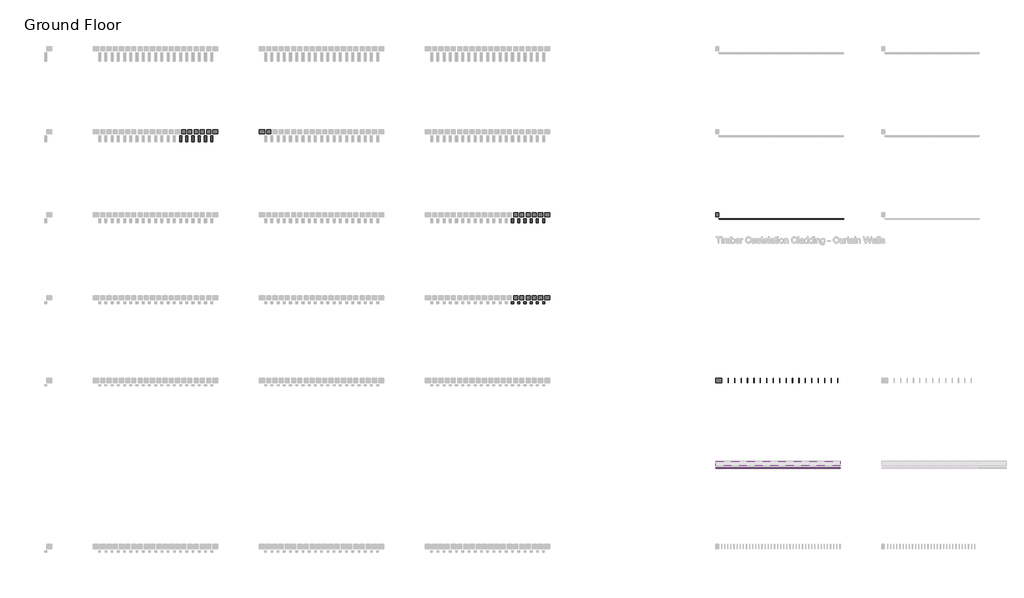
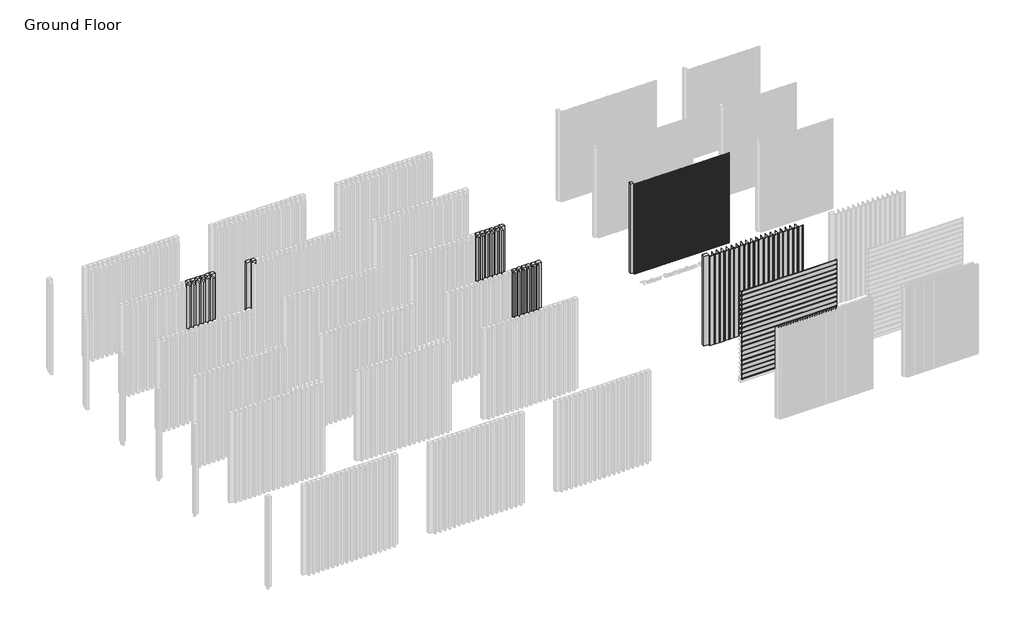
# One storey, part 20 of 350: 93 members, 47 plates.
"""IFC4 building model written with IfcOpenShell, lengths in millimetres."""

from ifc_helpers import new_model, si_unit, origin, place, context, project, spatial, transform, mapped, element, save
from components import rectangular_mullion_26362614, rectangular_mullion_4aa68164, rectangular_mullion_1e7650be, rectangular_mullion_e9fc8109, rectangular_mullion_a9feb706, empty_system_panel_empty_02c6fd44, empty_system_panel_empty_a8601f27, empty_system_panel_empty_23ba90fe, empty_system_panel_empty_02e968fa, empty_system_panel_empty_27b459cb, empty_system_panel_empty_81d7e91e, empty_system_panel_empty_cbd4e42b

model = new_model("IFC4")

# Units and contexts
model_context = context("Model", 3, world=origin())
ifc_project = project(units=[si_unit("LENGTHUNIT", "METRE", prefix="MILLI")], contexts=[model_context])

# Site, building, storey
site = spatial("IfcSite", under=ifc_project)
building = spatial("IfcBuilding", under=site)
storey = spatial("IfcBuildingStorey", under=building, Name="Ground Floor", Elevation=0.0)

# Members
placement = place(None, origin())
rectangular_mullion_shape = rectangular_mullion_26362614(model_context)
element("IfcMember", 1, ObjectType="Rectangular Mullion : Batten_Aluminium_Modinex_AluBatten_50x150_SpottedGum", at=placement, inside=storey, context=model_context, shape_type="MappedRepresentation", body=[
    mapped(rectangular_mullion_shape, transform((16016.4361642, 24968.2978302, 0.0), x_axis=(1.0, 0.0, 0.0), y_axis=(0.0, -1.0, 0.0), z_axis=(0.0, 0.0, -1.0))),
])
element("IfcMember", 2, ObjectType="Rectangular Mullion : Batten_Aluminium_Modinex_AluBatten_50x150_SpottedGum", at=placement, inside=storey, context=model_context, shape_type="MappedRepresentation", body=[
    mapped(rectangular_mullion_shape, transform((16166.4361642, 24968.2978302, 0.0), x_axis=(1.0, 0.0, 0.0), y_axis=(0.0, -1.0, 0.0), z_axis=(0.0, 0.0, -1.0))),
])
element("IfcMember", 3, ObjectType="Rectangular Mullion : Batten_Aluminium_Modinex_AluBatten_50x150_SpottedGum", at=placement, inside=storey, context=model_context, shape_type="MappedRepresentation", body=[
    mapped(rectangular_mullion_shape, transform((16316.4361642, 24968.2978302, 0.0), x_axis=(1.0, 0.0, 0.0), y_axis=(0.0, -1.0, 0.0), z_axis=(0.0, 0.0, -1.0))),
])
element("IfcMember", 4, ObjectType="Rectangular Mullion : Batten_Aluminium_Modinex_AluBatten_50x150_SpottedGum", at=placement, inside=storey, context=model_context, shape_type="MappedRepresentation", body=[
    mapped(rectangular_mullion_shape, transform((16466.4361642, 24968.2978302, 0.0), x_axis=(1.0, 0.0, 0.0), y_axis=(0.0, -1.0, 0.0), z_axis=(0.0, 0.0, -1.0))),
])
element("IfcMember", 5, ObjectType="Rectangular Mullion : Batten_Aluminium_Modinex_AluBatten_50x150_SpottedGum", at=placement, inside=storey, context=model_context, shape_type="MappedRepresentation", body=[
    mapped(rectangular_mullion_shape, transform((16616.4361642, 24968.2978302, 0.0), x_axis=(1.0, 0.0, 0.0), y_axis=(0.0, -1.0, 0.0), z_axis=(0.0, 0.0, -1.0))),
])
element("IfcMember", 6, ObjectType="Rectangular Mullion : Batten_Aluminium_Modinex_AluBatten_50x150_SpottedGum", at=placement, inside=storey, context=model_context, shape_type="MappedRepresentation", body=[
    mapped(rectangular_mullion_shape, transform((16766.4361642, 24968.2978302, 0.0), x_axis=(1.0, 0.0, 0.0), y_axis=(0.0, -1.0, 0.0), z_axis=(0.0, 0.0, -1.0))),
])
rectangular_mullion_2_shape = rectangular_mullion_4aa68164(model_context)
element("IfcMember", 7, ObjectType="Rectangular Mullion : Cladding_Timber_Modinex_Castelation_81x12_AlaskanYellowCedar", at=placement, inside=storey, context=model_context, shape_type="MappedRepresentation", body=[
    mapped(rectangular_mullion_2_shape, transform((30536.4361642, 22968.2978302, 0.0), x_axis=(1.0, 0.0, 0.0), y_axis=(0.0, -1.0, 0.0), z_axis=(0.0, 0.0, -1.0))),
])
element("IfcMember", 8, ObjectType="Rectangular Mullion : Cladding_Timber_Modinex_Castelation_81x12_AlaskanYellowCedar", at=placement, inside=storey, context=model_context, shape_type="MappedRepresentation", body=[
    mapped(rectangular_mullion_2_shape, transform((30617.4361642, 22968.2978302, 0.0), x_axis=(1.0, 0.0, 0.0), y_axis=(0.0, -1.0, 0.0), z_axis=(0.0, 0.0, -1.0))),
])
element("IfcMember", 9, ObjectType="Rectangular Mullion : Cladding_Timber_Modinex_Castelation_81x12_AlaskanYellowCedar", at=placement, inside=storey, context=model_context, shape_type="MappedRepresentation", body=[
    mapped(rectangular_mullion_2_shape, transform((30698.4361642, 22968.2978302, 0.0), x_axis=(1.0, 0.0, 0.0), y_axis=(0.0, -1.0, 0.0), z_axis=(0.0, 0.0, -1.0))),
])
element("IfcMember", 10, ObjectType="Rectangular Mullion : Cladding_Timber_Modinex_Castelation_81x12_AlaskanYellowCedar", at=placement, inside=storey, context=model_context, shape_type="MappedRepresentation", body=[
    mapped(rectangular_mullion_2_shape, transform((30779.4361642, 22968.2978302, 0.0), x_axis=(1.0, 0.0, 0.0), y_axis=(0.0, -1.0, 0.0), z_axis=(0.0, 0.0, -1.0))),
])
element("IfcMember", 11, ObjectType="Rectangular Mullion : Cladding_Timber_Modinex_Castelation_81x12_AlaskanYellowCedar", at=placement, inside=storey, context=model_context, shape_type="MappedRepresentation", body=[
    mapped(rectangular_mullion_2_shape, transform((30860.4361642, 22968.2978302, 0.0), x_axis=(1.0, 0.0, 0.0), y_axis=(0.0, -1.0, 0.0), z_axis=(0.0, 0.0, -1.0))),
])
element("IfcMember", 12, ObjectType="Rectangular Mullion : Cladding_Timber_Modinex_Castelation_81x12_AlaskanYellowCedar", at=placement, inside=storey, context=model_context, shape_type="MappedRepresentation", body=[
    mapped(rectangular_mullion_2_shape, transform((30941.4361642, 22968.2978302, 0.0), x_axis=(1.0, 0.0, 0.0), y_axis=(0.0, -1.0, 0.0), z_axis=(0.0, 0.0, -1.0))),
])
element("IfcMember", 13, ObjectType="Rectangular Mullion : Cladding_Timber_Modinex_Castelation_81x12_AlaskanYellowCedar", at=placement, inside=storey, context=model_context, shape_type="MappedRepresentation", body=[
    mapped(rectangular_mullion_2_shape, transform((31022.4361642, 22968.2978302, 0.0), x_axis=(1.0, 0.0, 0.0), y_axis=(0.0, -1.0, 0.0), z_axis=(0.0, 0.0, -1.0))),
])
element("IfcMember", 14, ObjectType="Rectangular Mullion : Cladding_Timber_Modinex_Castelation_81x12_AlaskanYellowCedar", at=placement, inside=storey, context=model_context, shape_type="MappedRepresentation", body=[
    mapped(rectangular_mullion_2_shape, transform((31103.4361642, 22968.2978302, 0.0), x_axis=(1.0, 0.0, 0.0), y_axis=(0.0, -1.0, 0.0), z_axis=(0.0, 0.0, -1.0))),
])
element("IfcMember", 15, ObjectType="Rectangular Mullion : Cladding_Timber_Modinex_Castelation_81x12_AlaskanYellowCedar", at=placement, inside=storey, context=model_context, shape_type="MappedRepresentation", body=[
    mapped(rectangular_mullion_2_shape, transform((31184.4361642, 22968.2978302, 0.0), x_axis=(1.0, 0.0, 0.0), y_axis=(0.0, -1.0, 0.0), z_axis=(0.0, 0.0, -1.0))),
])
element("IfcMember", 16, ObjectType="Rectangular Mullion : Cladding_Timber_Modinex_Castelation_81x12_AlaskanYellowCedar", at=placement, inside=storey, context=model_context, shape_type="MappedRepresentation", body=[
    mapped(rectangular_mullion_2_shape, transform((31265.4361642, 22968.2978302, 0.0), x_axis=(1.0, 0.0, 0.0), y_axis=(0.0, -1.0, 0.0), z_axis=(0.0, 0.0, -1.0))),
])
element("IfcMember", 17, ObjectType="Rectangular Mullion : Cladding_Timber_Modinex_Castelation_81x12_AlaskanYellowCedar", at=placement, inside=storey, context=model_context, shape_type="MappedRepresentation", body=[
    mapped(rectangular_mullion_2_shape, transform((31346.4361642, 22968.2978302, 0.0), x_axis=(1.0, 0.0, 0.0), y_axis=(0.0, -1.0, 0.0), z_axis=(0.0, 0.0, -1.0))),
])
element("IfcMember", 18, ObjectType="Rectangular Mullion : Cladding_Timber_Modinex_Castelation_81x12_AlaskanYellowCedar", at=placement, inside=storey, context=model_context, shape_type="MappedRepresentation", body=[
    mapped(rectangular_mullion_2_shape, transform((31427.4361642, 22968.2978302, 0.0), x_axis=(1.0, 0.0, 0.0), y_axis=(0.0, -1.0, 0.0), z_axis=(0.0, 0.0, -1.0))),
])
element("IfcMember", 19, ObjectType="Rectangular Mullion : Cladding_Timber_Modinex_Castelation_81x12_AlaskanYellowCedar", at=placement, inside=storey, context=model_context, shape_type="MappedRepresentation", body=[
    mapped(rectangular_mullion_2_shape, transform((31508.4361642, 22968.2978302, 0.0), x_axis=(1.0, 0.0, 0.0), y_axis=(0.0, -1.0, 0.0), z_axis=(0.0, 0.0, -1.0))),
])
element("IfcMember", 20, ObjectType="Rectangular Mullion : Cladding_Timber_Modinex_Castelation_81x12_AlaskanYellowCedar", at=placement, inside=storey, context=model_context, shape_type="MappedRepresentation", body=[
    mapped(rectangular_mullion_2_shape, transform((31589.4361642, 22968.2978302, 0.0), x_axis=(1.0, 0.0, 0.0), y_axis=(0.0, -1.0, 0.0), z_axis=(0.0, 0.0, -1.0))),
])
element("IfcMember", 21, ObjectType="Rectangular Mullion : Cladding_Timber_Modinex_Castelation_81x12_AlaskanYellowCedar", at=placement, inside=storey, context=model_context, shape_type="MappedRepresentation", body=[
    mapped(rectangular_mullion_2_shape, transform((31670.4361642, 22968.2978302, 0.0), x_axis=(1.0, 0.0, 0.0), y_axis=(0.0, -1.0, 0.0), z_axis=(0.0, 0.0, -1.0))),
])
element("IfcMember", 22, ObjectType="Rectangular Mullion : Cladding_Timber_Modinex_Castelation_81x12_AlaskanYellowCedar", at=placement, inside=storey, context=model_context, shape_type="MappedRepresentation", body=[
    mapped(rectangular_mullion_2_shape, transform((31751.4361642, 22968.2978302, 0.0), x_axis=(1.0, 0.0, 0.0), y_axis=(0.0, -1.0, 0.0), z_axis=(0.0, 0.0, -1.0))),
])
element("IfcMember", 23, ObjectType="Rectangular Mullion : Cladding_Timber_Modinex_Castelation_81x12_AlaskanYellowCedar", at=placement, inside=storey, context=model_context, shape_type="MappedRepresentation", body=[
    mapped(rectangular_mullion_2_shape, transform((31832.4361642, 22968.2978302, 0.0), x_axis=(1.0, 0.0, 0.0), y_axis=(0.0, -1.0, 0.0), z_axis=(0.0, 0.0, -1.0))),
])
element("IfcMember", 24, ObjectType="Rectangular Mullion : Cladding_Timber_Modinex_Castelation_81x12_AlaskanYellowCedar", at=placement, inside=storey, context=model_context, shape_type="MappedRepresentation", body=[
    mapped(rectangular_mullion_2_shape, transform((31913.4361642, 22968.2978302, 0.0), x_axis=(1.0, 0.0, 0.0), y_axis=(0.0, -1.0, 0.0), z_axis=(0.0, 0.0, -1.0))),
])
element("IfcMember", 25, ObjectType="Rectangular Mullion : Cladding_Timber_Modinex_Castelation_81x12_AlaskanYellowCedar", at=placement, inside=storey, context=model_context, shape_type="MappedRepresentation", body=[
    mapped(rectangular_mullion_2_shape, transform((30455.4361642, 22968.2978302, 0.0), x_axis=(1.0, 0.0, 0.0), y_axis=(0.0, -1.0, 0.0), z_axis=(0.0, 0.0, -1.0))),
])
element("IfcMember", 26, ObjectType="Rectangular Mullion : Cladding_Timber_Modinex_Castelation_81x12_AlaskanYellowCedar", at=placement, inside=storey, context=model_context, shape_type="MappedRepresentation", body=[
    mapped(rectangular_mullion_2_shape, transform((30374.4361642, 22968.2978302, 0.0), x_axis=(1.0, 0.0, 0.0), y_axis=(0.0, -1.0, 0.0), z_axis=(0.0, 0.0, -1.0))),
])
element("IfcMember", 27, ObjectType="Rectangular Mullion : Cladding_Timber_Modinex_Castelation_81x12_AlaskanYellowCedar", at=placement, inside=storey, context=model_context, shape_type="MappedRepresentation", body=[
    mapped(rectangular_mullion_2_shape, transform((30293.4361642, 22968.2978302, 0.0), x_axis=(1.0, 0.0, 0.0), y_axis=(0.0, -1.0, 0.0), z_axis=(0.0, 0.0, -1.0))),
])
element("IfcMember", 28, ObjectType="Rectangular Mullion : Cladding_Timber_Modinex_Castelation_81x12_AlaskanYellowCedar", at=placement, inside=storey, context=model_context, shape_type="MappedRepresentation", body=[
    mapped(rectangular_mullion_2_shape, transform((30212.4361642, 22968.2978302, 0.0), x_axis=(1.0, 0.0, 0.0), y_axis=(0.0, -1.0, 0.0), z_axis=(0.0, 0.0, -1.0))),
])
element("IfcMember", 29, ObjectType="Rectangular Mullion : Cladding_Timber_Modinex_Castelation_81x12_AlaskanYellowCedar", at=placement, inside=storey, context=model_context, shape_type="MappedRepresentation", body=[
    mapped(rectangular_mullion_2_shape, transform((30131.4361642, 22968.2978302, 0.0), x_axis=(1.0, 0.0, 0.0), y_axis=(0.0, -1.0, 0.0), z_axis=(0.0, 0.0, -1.0))),
])
element("IfcMember", 30, ObjectType="Rectangular Mullion : Cladding_Timber_Modinex_Castelation_81x12_AlaskanYellowCedar", at=placement, inside=storey, context=model_context, shape_type="MappedRepresentation", body=[
    mapped(rectangular_mullion_2_shape, transform((30050.4361642, 22968.2978302, 0.0), x_axis=(1.0, 0.0, 0.0), y_axis=(0.0, -1.0, 0.0), z_axis=(0.0, 0.0, -1.0))),
])
element("IfcMember", 31, ObjectType="Rectangular Mullion : Cladding_Timber_Modinex_Castelation_81x12_AlaskanYellowCedar", at=placement, inside=storey, context=model_context, shape_type="MappedRepresentation", body=[
    mapped(rectangular_mullion_2_shape, transform((29969.4361642, 22968.2978302, 0.0), x_axis=(1.0, 0.0, 0.0), y_axis=(0.0, -1.0, 0.0), z_axis=(0.0, 0.0, -1.0))),
])
element("IfcMember", 32, ObjectType="Rectangular Mullion : Cladding_Timber_Modinex_Castelation_81x12_AlaskanYellowCedar", at=placement, inside=storey, context=model_context, shape_type="MappedRepresentation", body=[
    mapped(rectangular_mullion_2_shape, transform((29888.4361642, 22968.2978302, 0.0), x_axis=(1.0, 0.0, 0.0), y_axis=(0.0, -1.0, 0.0), z_axis=(0.0, 0.0, -1.0))),
])
element("IfcMember", 33, ObjectType="Rectangular Mullion : Cladding_Timber_Modinex_Castelation_81x12_AlaskanYellowCedar", at=placement, inside=storey, context=model_context, shape_type="MappedRepresentation", body=[
    mapped(rectangular_mullion_2_shape, transform((29807.4361642, 22968.2978302, 0.0), x_axis=(1.0, 0.0, 0.0), y_axis=(0.0, -1.0, 0.0), z_axis=(0.0, 0.0, -1.0))),
])
element("IfcMember", 34, ObjectType="Rectangular Mullion : Cladding_Timber_Modinex_Castelation_81x12_AlaskanYellowCedar", at=placement, inside=storey, context=model_context, shape_type="MappedRepresentation", body=[
    mapped(rectangular_mullion_2_shape, transform((29726.4361642, 22968.2978302, 0.0), x_axis=(1.0, 0.0, 0.0), y_axis=(0.0, -1.0, 0.0), z_axis=(0.0, 0.0, -1.0))),
])
element("IfcMember", 35, ObjectType="Rectangular Mullion : Cladding_Timber_Modinex_Castelation_81x12_AlaskanYellowCedar", at=placement, inside=storey, context=model_context, shape_type="MappedRepresentation", body=[
    mapped(rectangular_mullion_2_shape, transform((29645.4361642, 22968.2978302, 0.0), x_axis=(1.0, 0.0, 0.0), y_axis=(0.0, -1.0, 0.0), z_axis=(0.0, 0.0, -1.0))),
])
element("IfcMember", 36, ObjectType="Rectangular Mullion : Cladding_Timber_Modinex_Castelation_81x12_AlaskanYellowCedar", at=placement, inside=storey, context=model_context, shape_type="MappedRepresentation", body=[
    mapped(rectangular_mullion_2_shape, transform((29564.4361642, 22968.2978302, 0.0), x_axis=(1.0, 0.0, 0.0), y_axis=(0.0, -1.0, 0.0), z_axis=(0.0, 0.0, -1.0))),
])
element("IfcMember", 37, ObjectType="Rectangular Mullion : Cladding_Timber_Modinex_Castelation_81x12_AlaskanYellowCedar", at=placement, inside=storey, context=model_context, shape_type="MappedRepresentation", body=[
    mapped(rectangular_mullion_2_shape, transform((29483.4361642, 22968.2978302, 0.0), x_axis=(1.0, 0.0, 0.0), y_axis=(0.0, -1.0, 0.0), z_axis=(0.0, 0.0, -1.0))),
])
element("IfcMember", 38, ObjectType="Rectangular Mullion : Cladding_Timber_Modinex_Castelation_81x12_AlaskanYellowCedar", at=placement, inside=storey, context=model_context, shape_type="MappedRepresentation", body=[
    mapped(rectangular_mullion_2_shape, transform((29402.4361642, 22968.2978302, 0.0), x_axis=(1.0, 0.0, 0.0), y_axis=(0.0, -1.0, 0.0), z_axis=(0.0, 0.0, -1.0))),
])
element("IfcMember", 39, ObjectType="Rectangular Mullion : Cladding_Timber_Modinex_Castelation_81x12_AlaskanYellowCedar", at=placement, inside=storey, context=model_context, shape_type="MappedRepresentation", body=[
    mapped(rectangular_mullion_2_shape, transform((29321.4361642, 22968.2978302, 0.0), x_axis=(1.0, 0.0, 0.0), y_axis=(0.0, -1.0, 0.0), z_axis=(0.0, 0.0, -1.0))),
])
element("IfcMember", 40, ObjectType="Rectangular Mullion : Cladding_Timber_Modinex_Castelation_81x12_AlaskanYellowCedar", at=placement, inside=storey, context=model_context, shape_type="MappedRepresentation", body=[
    mapped(rectangular_mullion_2_shape, transform((29240.4361642, 22968.2978302, 0.0), x_axis=(1.0, 0.0, 0.0), y_axis=(0.0, -1.0, 0.0), z_axis=(0.0, 0.0, -1.0))),
])
element("IfcMember", 41, ObjectType="Rectangular Mullion : Cladding_Timber_Modinex_Castelation_81x12_AlaskanYellowCedar", at=placement, inside=storey, context=model_context, shape_type="MappedRepresentation", body=[
    mapped(rectangular_mullion_2_shape, transform((29159.4361642, 22968.2978302, 0.0), x_axis=(1.0, 0.0, 0.0), y_axis=(0.0, -1.0, 0.0), z_axis=(0.0, 0.0, -1.0))),
])
element("IfcMember", 42, ObjectType="Rectangular Mullion : Cladding_Timber_Modinex_Castelation_81x12_AlaskanYellowCedar", at=placement, inside=storey, context=model_context, shape_type="MappedRepresentation", body=[
    mapped(rectangular_mullion_2_shape, transform((29078.4361642, 22968.2978302, 0.0), x_axis=(1.0, 0.0, 0.0), y_axis=(0.0, -1.0, 0.0), z_axis=(0.0, 0.0, -1.0))),
])
element("IfcMember", 43, ObjectType="Rectangular Mullion : Cladding_Timber_Modinex_Castelation_81x12_AlaskanYellowCedar", at=placement, inside=storey, context=model_context, shape_type="MappedRepresentation", body=[
    mapped(rectangular_mullion_2_shape, transform((28997.4361642, 22968.2978302, 0.0), x_axis=(1.0, 0.0, 0.0), y_axis=(0.0, -1.0, 0.0), z_axis=(0.0, 0.0, -1.0))),
])
rectangular_mullion_3_shape = rectangular_mullion_1e7650be(model_context)
element("IfcMember", 44, ObjectType="Rectangular Mullion : Batten_Aluminium_Modinex_AluBatten_50x50_WhiteOak", at=placement, inside=storey, context=model_context, shape_type="MappedRepresentation", body=[
    mapped(rectangular_mullion_3_shape, transform((24016.4361642, 20968.2978302, 0.0), x_axis=(1.0, 0.0, 0.0), y_axis=(0.0, -1.0, 0.0), z_axis=(0.0, 0.0, -1.0))),
])
element("IfcMember", 45, ObjectType="Rectangular Mullion : Batten_Aluminium_Modinex_AluBatten_50x50_WhiteOak", at=placement, inside=storey, context=model_context, shape_type="MappedRepresentation", body=[
    mapped(rectangular_mullion_3_shape, transform((24166.4361642, 20968.2978302, 0.0), x_axis=(1.0, 0.0, 0.0), y_axis=(0.0, -1.0, 0.0), z_axis=(0.0, 0.0, -1.0))),
])
element("IfcMember", 46, ObjectType="Rectangular Mullion : Batten_Aluminium_Modinex_AluBatten_50x50_WhiteOak", at=placement, inside=storey, context=model_context, shape_type="MappedRepresentation", body=[
    mapped(rectangular_mullion_3_shape, transform((24316.4361642, 20968.2978302, 0.0), x_axis=(1.0, 0.0, 0.0), y_axis=(0.0, -1.0, 0.0), z_axis=(0.0, 0.0, -1.0))),
])
element("IfcMember", 47, ObjectType="Rectangular Mullion : Batten_Aluminium_Modinex_AluBatten_50x50_WhiteOak", at=placement, inside=storey, context=model_context, shape_type="MappedRepresentation", body=[
    mapped(rectangular_mullion_3_shape, transform((24466.4361642, 20968.2978302, 0.0), x_axis=(1.0, 0.0, 0.0), y_axis=(0.0, -1.0, 0.0), z_axis=(0.0, 0.0, -1.0))),
])
element("IfcMember", 48, ObjectType="Rectangular Mullion : Batten_Aluminium_Modinex_AluBatten_50x50_WhiteOak", at=placement, inside=storey, context=model_context, shape_type="MappedRepresentation", body=[
    mapped(rectangular_mullion_3_shape, transform((24616.4361642, 20968.2978302, 0.0), x_axis=(1.0, 0.0, 0.0), y_axis=(0.0, -1.0, 0.0), z_axis=(0.0, 0.0, -1.0))),
])
element("IfcMember", 49, ObjectType="Rectangular Mullion : Batten_Aluminium_Modinex_AluBatten_50x50_WhiteOak", at=placement, inside=storey, context=model_context, shape_type="MappedRepresentation", body=[
    mapped(rectangular_mullion_3_shape, transform((24766.4361642, 20968.2978302, 0.0), x_axis=(1.0, 0.0, 0.0), y_axis=(0.0, -1.0, 0.0), z_axis=(0.0, 0.0, -1.0))),
])
rectangular_mullion_4_shape = rectangular_mullion_e9fc8109(model_context)
element("IfcMember", 50, ObjectType="Rectangular Mullion : Batten_Aluminium_Modinex_AluBatten_50x100_WhiteOak", at=placement, inside=storey, context=model_context, shape_type="MappedRepresentation", body=[
    mapped(rectangular_mullion_4_shape, transform((24016.4361642, 22968.2978302, 0.0), x_axis=(1.0, 0.0, 0.0), y_axis=(0.0, -1.0, 0.0), z_axis=(0.0, 0.0, -1.0))),
])
element("IfcMember", 51, ObjectType="Rectangular Mullion : Batten_Aluminium_Modinex_AluBatten_50x100_WhiteOak", at=placement, inside=storey, context=model_context, shape_type="MappedRepresentation", body=[
    mapped(rectangular_mullion_4_shape, transform((24166.4361642, 22968.2978302, 0.0), x_axis=(1.0, 0.0, 0.0), y_axis=(0.0, -1.0, 0.0), z_axis=(0.0, 0.0, -1.0))),
])
element("IfcMember", 52, ObjectType="Rectangular Mullion : Batten_Aluminium_Modinex_AluBatten_50x100_WhiteOak", at=placement, inside=storey, context=model_context, shape_type="MappedRepresentation", body=[
    mapped(rectangular_mullion_4_shape, transform((24316.4361642, 22968.2978302, 0.0), x_axis=(1.0, 0.0, 0.0), y_axis=(0.0, -1.0, 0.0), z_axis=(0.0, 0.0, -1.0))),
])
element("IfcMember", 53, ObjectType="Rectangular Mullion : Batten_Aluminium_Modinex_AluBatten_50x100_WhiteOak", at=placement, inside=storey, context=model_context, shape_type="MappedRepresentation", body=[
    mapped(rectangular_mullion_4_shape, transform((24466.4361642, 22968.2978302, 0.0), x_axis=(1.0, 0.0, 0.0), y_axis=(0.0, -1.0, 0.0), z_axis=(0.0, 0.0, -1.0))),
])
element("IfcMember", 54, ObjectType="Rectangular Mullion : Batten_Aluminium_Modinex_AluBatten_50x100_WhiteOak", at=placement, inside=storey, context=model_context, shape_type="MappedRepresentation", body=[
    mapped(rectangular_mullion_4_shape, transform((24616.4361642, 22968.2978302, 0.0), x_axis=(1.0, 0.0, 0.0), y_axis=(0.0, -1.0, 0.0), z_axis=(0.0, 0.0, -1.0))),
])
element("IfcMember", 55, ObjectType="Rectangular Mullion : Batten_Aluminium_Modinex_AluBatten_50x100_WhiteOak", at=placement, inside=storey, context=model_context, shape_type="MappedRepresentation", body=[
    mapped(rectangular_mullion_4_shape, transform((24766.4361642, 22968.2978302, 0.0), x_axis=(1.0, 0.0, 0.0), y_axis=(0.0, -1.0, 0.0), z_axis=(0.0, 0.0, -1.0))),
])
rectangular_mullion_5_shape = rectangular_mullion_a9feb706(model_context)
element("IfcMember", 56, ObjectType="Rectangular Mullion : Cladding_Aluminium_Modinex_AluSelekta_Channel_155_AfricanEbony", at=placement, inside=storey, context=model_context, shape_type="MappedRepresentation", body=[
    mapped(rectangular_mullion_5_shape, transform((31916.4361639, 16968.2978302, 155.0), x_axis=(0.0, 0.0, 1.0), y_axis=(0.0, -1.0, 0.0), z_axis=(1.0, 0.0, 0.0))),
])
element("IfcMember", 57, ObjectType="Rectangular Mullion : Cladding_Aluminium_Modinex_AluSelekta_Channel_155_AfricanEbony", at=placement, inside=storey, context=model_context, shape_type="MappedRepresentation", body=[
    mapped(rectangular_mullion_5_shape, transform((31916.4361639, 16968.2978302, 310.0), x_axis=(0.0, 0.0, 1.0), y_axis=(0.0, -1.0, 0.0), z_axis=(1.0, 0.0, 0.0))),
])
element("IfcMember", 58, ObjectType="Rectangular Mullion : Cladding_Aluminium_Modinex_AluSelekta_Channel_155_AfricanEbony", at=placement, inside=storey, context=model_context, shape_type="MappedRepresentation", body=[
    mapped(rectangular_mullion_5_shape, transform((31916.4361639, 16968.2978302, 465.0), x_axis=(0.0, 0.0, 1.0), y_axis=(0.0, -1.0, 0.0), z_axis=(1.0, 0.0, 0.0))),
])
element("IfcMember", 59, ObjectType="Rectangular Mullion : Cladding_Aluminium_Modinex_AluSelekta_Channel_155_AfricanEbony", at=placement, inside=storey, context=model_context, shape_type="MappedRepresentation", body=[
    mapped(rectangular_mullion_5_shape, transform((31916.4361639, 16968.2978302, 620.0), x_axis=(0.0, 0.0, 1.0), y_axis=(0.0, -1.0, 0.0), z_axis=(1.0, 0.0, 0.0))),
])
element("IfcMember", 60, ObjectType="Rectangular Mullion : Cladding_Aluminium_Modinex_AluSelekta_Channel_155_AfricanEbony", at=placement, inside=storey, context=model_context, shape_type="MappedRepresentation", body=[
    mapped(rectangular_mullion_5_shape, transform((31916.4361639, 16968.2978302, 775.0), x_axis=(0.0, 0.0, 1.0), y_axis=(0.0, -1.0, 0.0), z_axis=(1.0, 0.0, 0.0))),
])
element("IfcMember", 61, ObjectType="Rectangular Mullion : Cladding_Aluminium_Modinex_AluSelekta_Channel_155_AfricanEbony", at=placement, inside=storey, context=model_context, shape_type="MappedRepresentation", body=[
    mapped(rectangular_mullion_5_shape, transform((31916.4361639, 16968.2978302, 930.0), x_axis=(0.0, 0.0, 1.0), y_axis=(0.0, -1.0, 0.0), z_axis=(1.0, 0.0, 0.0))),
])
element("IfcMember", 62, ObjectType="Rectangular Mullion : Cladding_Aluminium_Modinex_AluSelekta_Channel_155_AfricanEbony", at=placement, inside=storey, context=model_context, shape_type="MappedRepresentation", body=[
    mapped(rectangular_mullion_5_shape, transform((31916.4361639, 16968.2978302, 1085.0), x_axis=(0.0, 0.0, 1.0), y_axis=(0.0, -1.0, 0.0), z_axis=(1.0, 0.0, 0.0))),
])
element("IfcMember", 63, ObjectType="Rectangular Mullion : Cladding_Aluminium_Modinex_AluSelekta_Channel_155_AfricanEbony", at=placement, inside=storey, context=model_context, shape_type="MappedRepresentation", body=[
    mapped(rectangular_mullion_5_shape, transform((31916.4361639, 16968.2978302, 1240.0), x_axis=(0.0, 0.0, 1.0), y_axis=(0.0, -1.0, 0.0), z_axis=(1.0, 0.0, 0.0))),
])
element("IfcMember", 64, ObjectType="Rectangular Mullion : Cladding_Aluminium_Modinex_AluSelekta_Channel_155_AfricanEbony", at=placement, inside=storey, context=model_context, shape_type="MappedRepresentation", body=[
    mapped(rectangular_mullion_5_shape, transform((31916.4361639, 16968.2978302, 1395.0), x_axis=(0.0, 0.0, 1.0), y_axis=(0.0, -1.0, 0.0), z_axis=(1.0, 0.0, 0.0))),
])
element("IfcMember", 65, ObjectType="Rectangular Mullion : Cladding_Aluminium_Modinex_AluSelekta_Channel_155_AfricanEbony", at=placement, inside=storey, context=model_context, shape_type="MappedRepresentation", body=[
    mapped(rectangular_mullion_5_shape, transform((31916.4361639, 16968.2978302, 1550.0), x_axis=(0.0, 0.0, 1.0), y_axis=(0.0, -1.0, 0.0), z_axis=(1.0, 0.0, 0.0))),
])
element("IfcMember", 66, ObjectType="Rectangular Mullion : Cladding_Aluminium_Modinex_AluSelekta_Channel_155_AfricanEbony", at=placement, inside=storey, context=model_context, shape_type="MappedRepresentation", body=[
    mapped(rectangular_mullion_5_shape, transform((31916.4361639, 16968.2978302, 1705.0), x_axis=(0.0, 0.0, 1.0), y_axis=(0.0, -1.0, 0.0), z_axis=(1.0, 0.0, 0.0))),
])
element("IfcMember", 67, ObjectType="Rectangular Mullion : Cladding_Aluminium_Modinex_AluSelekta_Channel_155_AfricanEbony", at=placement, inside=storey, context=model_context, shape_type="MappedRepresentation", body=[
    mapped(rectangular_mullion_5_shape, transform((31916.4361639, 16968.2978302, 1860.0), x_axis=(0.0, 0.0, 1.0), y_axis=(0.0, -1.0, 0.0), z_axis=(1.0, 0.0, 0.0))),
])
element("IfcMember", 68, ObjectType="Rectangular Mullion : Cladding_Aluminium_Modinex_AluSelekta_Channel_155_AfricanEbony", at=placement, inside=storey, context=model_context, shape_type="MappedRepresentation", body=[
    mapped(rectangular_mullion_5_shape, transform((31916.4361639, 16968.2978302, 2015.0), x_axis=(0.0, 0.0, 1.0), y_axis=(0.0, -1.0, 0.0), z_axis=(1.0, 0.0, 0.0))),
])
element("IfcMember", 69, ObjectType="Rectangular Mullion : Cladding_Aluminium_Modinex_AluSelekta_Channel_155_AfricanEbony", at=placement, inside=storey, context=model_context, shape_type="MappedRepresentation", body=[
    mapped(rectangular_mullion_5_shape, transform((31916.4361639, 16968.2978302, 2170.0), x_axis=(0.0, 0.0, 1.0), y_axis=(0.0, -1.0, 0.0), z_axis=(1.0, 0.0, 0.0))),
])
element("IfcMember", 70, ObjectType="Rectangular Mullion : Cladding_Aluminium_Modinex_AluSelekta_Channel_155_AfricanEbony", at=placement, inside=storey, context=model_context, shape_type="MappedRepresentation", body=[
    mapped(rectangular_mullion_5_shape, transform((31916.4361639, 16968.2978302, 2325.0), x_axis=(0.0, 0.0, 1.0), y_axis=(0.0, -1.0, 0.0), z_axis=(1.0, 0.0, 0.0))),
])
element("IfcMember", 71, ObjectType="Rectangular Mullion : Cladding_Aluminium_Modinex_AluSelekta_Channel_155_AfricanEbony", at=placement, inside=storey, context=model_context, shape_type="MappedRepresentation", body=[
    mapped(rectangular_mullion_5_shape, transform((31916.4361639, 16968.2978302, 2480.0), x_axis=(0.0, 0.0, 1.0), y_axis=(0.0, -1.0, 0.0), z_axis=(1.0, 0.0, 0.0))),
])
element("IfcMember", 72, ObjectType="Rectangular Mullion : Cladding_Aluminium_Modinex_AluSelekta_Channel_155_AfricanEbony", at=placement, inside=storey, context=model_context, shape_type="MappedRepresentation", body=[
    mapped(rectangular_mullion_5_shape, transform((31916.4361639, 16968.2978302, 2635.0), x_axis=(0.0, 0.0, 1.0), y_axis=(0.0, -1.0, 0.0), z_axis=(1.0, 0.0, 0.0))),
])
element("IfcMember", 73, ObjectType="Rectangular Mullion : Cladding_Aluminium_Modinex_AluSelekta_Channel_155_AfricanEbony", at=placement, inside=storey, context=model_context, shape_type="MappedRepresentation", body=[
    mapped(rectangular_mullion_5_shape, transform((31916.4361639, 16968.2978302, 2790.0), x_axis=(0.0, 0.0, 1.0), y_axis=(0.0, -1.0, 0.0), z_axis=(1.0, 0.0, 0.0))),
])
element("IfcMember", 74, ObjectType="Rectangular Mullion : Cladding_Aluminium_Modinex_AluSelekta_Channel_155_AfricanEbony", at=placement, inside=storey, context=model_context, shape_type="MappedRepresentation", body=[
    mapped(rectangular_mullion_5_shape, transform((31916.4361639, 16968.2978302, 2945.0), x_axis=(0.0, 0.0, 1.0), y_axis=(0.0, -1.0, 0.0), z_axis=(1.0, 0.0, 0.0))),
])
element("IfcMember", 75, ObjectType="Rectangular Mullion : Cladding_Aluminium_Modinex_AluSelekta_Channel_155_AfricanEbony", at=placement, inside=storey, context=model_context, shape_type="MappedRepresentation", body=[
    mapped(rectangular_mullion_5_shape, transform((29226.4361642, 18968.2978302, 0.0), x_axis=(1.0, 0.0, 0.0), y_axis=(0.0, -1.0, 0.0), z_axis=(0.0, 0.0, -1.0))),
])
element("IfcMember", 76, ObjectType="Rectangular Mullion : Cladding_Aluminium_Modinex_AluSelekta_Channel_155_AfricanEbony", at=placement, inside=storey, context=model_context, shape_type="MappedRepresentation", body=[
    mapped(rectangular_mullion_5_shape, transform((29381.4361642, 18968.2978302, 0.0), x_axis=(1.0, 0.0, 0.0), y_axis=(0.0, -1.0, 0.0), z_axis=(0.0, 0.0, -1.0))),
])
element("IfcMember", 77, ObjectType="Rectangular Mullion : Cladding_Aluminium_Modinex_AluSelekta_Channel_155_AfricanEbony", at=placement, inside=storey, context=model_context, shape_type="MappedRepresentation", body=[
    mapped(rectangular_mullion_5_shape, transform((29536.4361642, 18968.2978302, 0.0), x_axis=(1.0, 0.0, 0.0), y_axis=(0.0, -1.0, 0.0), z_axis=(0.0, 0.0, -1.0))),
])
element("IfcMember", 78, ObjectType="Rectangular Mullion : Cladding_Aluminium_Modinex_AluSelekta_Channel_155_AfricanEbony", at=placement, inside=storey, context=model_context, shape_type="MappedRepresentation", body=[
    mapped(rectangular_mullion_5_shape, transform((29691.4361642, 18968.2978302, 0.0), x_axis=(1.0, 0.0, 0.0), y_axis=(0.0, -1.0, 0.0), z_axis=(0.0, 0.0, -1.0))),
])
element("IfcMember", 79, ObjectType="Rectangular Mullion : Cladding_Aluminium_Modinex_AluSelekta_Channel_155_AfricanEbony", at=placement, inside=storey, context=model_context, shape_type="MappedRepresentation", body=[
    mapped(rectangular_mullion_5_shape, transform((29846.4361642, 18968.2978302, 0.0), x_axis=(1.0, 0.0, 0.0), y_axis=(0.0, -1.0, 0.0), z_axis=(0.0, 0.0, -1.0))),
])
element("IfcMember", 80, ObjectType="Rectangular Mullion : Cladding_Aluminium_Modinex_AluSelekta_Channel_155_AfricanEbony", at=placement, inside=storey, context=model_context, shape_type="MappedRepresentation", body=[
    mapped(rectangular_mullion_5_shape, transform((30001.4361642, 18968.2978302, 0.0), x_axis=(1.0, 0.0, 0.0), y_axis=(0.0, -1.0, 0.0), z_axis=(0.0, 0.0, -1.0))),
])
element("IfcMember", 81, ObjectType="Rectangular Mullion : Cladding_Aluminium_Modinex_AluSelekta_Channel_155_AfricanEbony", at=placement, inside=storey, context=model_context, shape_type="MappedRepresentation", body=[
    mapped(rectangular_mullion_5_shape, transform((30156.4361642, 18968.2978302, 0.0), x_axis=(1.0, 0.0, 0.0), y_axis=(0.0, -1.0, 0.0), z_axis=(0.0, 0.0, -1.0))),
])
element("IfcMember", 82, ObjectType="Rectangular Mullion : Cladding_Aluminium_Modinex_AluSelekta_Channel_155_AfricanEbony", at=placement, inside=storey, context=model_context, shape_type="MappedRepresentation", body=[
    mapped(rectangular_mullion_5_shape, transform((30311.4361642, 18968.2978302, 0.0), x_axis=(1.0, 0.0, 0.0), y_axis=(0.0, -1.0, 0.0), z_axis=(0.0, 0.0, -1.0))),
])
element("IfcMember", 83, ObjectType="Rectangular Mullion : Cladding_Aluminium_Modinex_AluSelekta_Channel_155_AfricanEbony", at=placement, inside=storey, context=model_context, shape_type="MappedRepresentation", body=[
    mapped(rectangular_mullion_5_shape, transform((30466.4361642, 18968.2978302, 0.0), x_axis=(1.0, 0.0, 0.0), y_axis=(0.0, -1.0, 0.0), z_axis=(0.0, 0.0, -1.0))),
])
element("IfcMember", 84, ObjectType="Rectangular Mullion : Cladding_Aluminium_Modinex_AluSelekta_Channel_155_AfricanEbony", at=placement, inside=storey, context=model_context, shape_type="MappedRepresentation", body=[
    mapped(rectangular_mullion_5_shape, transform((30621.4361642, 18968.2978302, 0.0), x_axis=(1.0, 0.0, 0.0), y_axis=(0.0, -1.0, 0.0), z_axis=(0.0, 0.0, -1.0))),
])
element("IfcMember", 85, ObjectType="Rectangular Mullion : Cladding_Aluminium_Modinex_AluSelekta_Channel_155_AfricanEbony", at=placement, inside=storey, context=model_context, shape_type="MappedRepresentation", body=[
    mapped(rectangular_mullion_5_shape, transform((30776.4361642, 18968.2978302, 0.0), x_axis=(1.0, 0.0, 0.0), y_axis=(0.0, -1.0, 0.0), z_axis=(0.0, 0.0, -1.0))),
])
element("IfcMember", 86, ObjectType="Rectangular Mullion : Cladding_Aluminium_Modinex_AluSelekta_Channel_155_AfricanEbony", at=placement, inside=storey, context=model_context, shape_type="MappedRepresentation", body=[
    mapped(rectangular_mullion_5_shape, transform((30931.4361642, 18968.2978302, 0.0), x_axis=(1.0, 0.0, 0.0), y_axis=(0.0, -1.0, 0.0), z_axis=(0.0, 0.0, -1.0))),
])
element("IfcMember", 87, ObjectType="Rectangular Mullion : Cladding_Aluminium_Modinex_AluSelekta_Channel_155_AfricanEbony", at=placement, inside=storey, context=model_context, shape_type="MappedRepresentation", body=[
    mapped(rectangular_mullion_5_shape, transform((31086.4361642, 18968.2978302, 0.0), x_axis=(1.0, 0.0, 0.0), y_axis=(0.0, -1.0, 0.0), z_axis=(0.0, 0.0, -1.0))),
])
element("IfcMember", 88, ObjectType="Rectangular Mullion : Cladding_Aluminium_Modinex_AluSelekta_Channel_155_AfricanEbony", at=placement, inside=storey, context=model_context, shape_type="MappedRepresentation", body=[
    mapped(rectangular_mullion_5_shape, transform((31241.4361642, 18968.2978302, 0.0), x_axis=(1.0, 0.0, 0.0), y_axis=(0.0, -1.0, 0.0), z_axis=(0.0, 0.0, -1.0))),
])
element("IfcMember", 89, ObjectType="Rectangular Mullion : Cladding_Aluminium_Modinex_AluSelekta_Channel_155_AfricanEbony", at=placement, inside=storey, context=model_context, shape_type="MappedRepresentation", body=[
    mapped(rectangular_mullion_5_shape, transform((31396.4361642, 18968.2978302, 0.0), x_axis=(1.0, 0.0, 0.0), y_axis=(0.0, -1.0, 0.0), z_axis=(0.0, 0.0, -1.0))),
])
element("IfcMember", 90, ObjectType="Rectangular Mullion : Cladding_Aluminium_Modinex_AluSelekta_Channel_155_AfricanEbony", at=placement, inside=storey, context=model_context, shape_type="MappedRepresentation", body=[
    mapped(rectangular_mullion_5_shape, transform((31551.4361642, 18968.2978302, 0.0), x_axis=(1.0, 0.0, 0.0), y_axis=(0.0, -1.0, 0.0), z_axis=(0.0, 0.0, -1.0))),
])
element("IfcMember", 91, ObjectType="Rectangular Mullion : Cladding_Aluminium_Modinex_AluSelekta_Channel_155_AfricanEbony", at=placement, inside=storey, context=model_context, shape_type="MappedRepresentation", body=[
    mapped(rectangular_mullion_5_shape, transform((31706.4361642, 18968.2978302, 0.0), x_axis=(1.0, 0.0, 0.0), y_axis=(0.0, -1.0, 0.0), z_axis=(0.0, 0.0, -1.0))),
])
element("IfcMember", 92, ObjectType="Rectangular Mullion : Cladding_Aluminium_Modinex_AluSelekta_Channel_155_AfricanEbony", at=placement, inside=storey, context=model_context, shape_type="MappedRepresentation", body=[
    mapped(rectangular_mullion_5_shape, transform((31861.4361642, 18968.2978302, 0.0), x_axis=(1.0, 0.0, 0.0), y_axis=(0.0, -1.0, 0.0), z_axis=(0.0, 0.0, -1.0))),
])
element("IfcMember", 93, ObjectType="Rectangular Mullion : Cladding_Aluminium_Modinex_AluSelekta_Channel_155_AfricanEbony", at=placement, inside=storey, context=model_context, shape_type="MappedRepresentation", body=[
    mapped(rectangular_mullion_5_shape, transform((29071.4361642, 18968.2978302, 0.0), x_axis=(1.0, 0.0, 0.0), y_axis=(0.0, -1.0, 0.0), z_axis=(0.0, 0.0, -1.0))),
])

# Plates
empty_system_panel_empty_shape = empty_system_panel_empty_02c6fd44(model_context)
element("IfcPlate", 94, ObjectType="Empty System Panel : Empty", at=placement, inside=storey, context=model_context, shape_type="MappedRepresentation", body=[
    mapped(empty_system_panel_empty_shape, transform((30416.4361639, 16968.2978302, 2002.2580963), x_axis=(1.0, 0.0, 0.0), y_axis=(0.0, 1.0, 0.0), z_axis=(0.0, 0.0, 1.0))),
])
element("IfcPlate", 95, ObjectType="Empty System Panel : Empty", at=placement, inside=storey, context=model_context, shape_type="MappedRepresentation", body=[
    mapped(empty_system_panel_empty_shape, transform((30416.4361639, 16968.2978302, 2157.2580963), x_axis=(1.0, 0.0, 0.0), y_axis=(0.0, 1.0, 0.0), z_axis=(0.0, 0.0, 1.0))),
])
element("IfcPlate", 96, ObjectType="Empty System Panel : Empty", at=placement, inside=storey, context=model_context, shape_type="MappedRepresentation", body=[
    mapped(empty_system_panel_empty_shape, transform((30416.4361639, 16968.2978302, 2312.2580963), x_axis=(1.0, 0.0, 0.0), y_axis=(0.0, 1.0, 0.0), z_axis=(0.0, 0.0, 1.0))),
])
element("IfcPlate", 97, ObjectType="Empty System Panel : Empty", at=placement, inside=storey, context=model_context, shape_type="MappedRepresentation", body=[
    mapped(empty_system_panel_empty_shape, transform((30416.4361639, 16968.2978302, 2467.2580963), x_axis=(1.0, 0.0, 0.0), y_axis=(0.0, 1.0, 0.0), z_axis=(0.0, 0.0, 1.0))),
])
element("IfcPlate", 98, ObjectType="Empty System Panel : Empty", at=placement, inside=storey, context=model_context, shape_type="MappedRepresentation", body=[
    mapped(empty_system_panel_empty_shape, transform((30416.4361639, 16968.2978302, 2622.2580963), x_axis=(1.0, 0.0, 0.0), y_axis=(0.0, 1.0, 0.0), z_axis=(0.0, 0.0, 1.0))),
])
element("IfcPlate", 99, ObjectType="Empty System Panel : Empty", at=placement, inside=storey, context=model_context, shape_type="MappedRepresentation", body=[
    mapped(empty_system_panel_empty_shape, transform((30416.4361639, 16968.2978302, 2777.2580963), x_axis=(1.0, 0.0, 0.0), y_axis=(0.0, 1.0, 0.0), z_axis=(0.0, 0.0, 1.0))),
])
element("IfcPlate", 100, ObjectType="Empty System Panel : Empty", at=placement, inside=storey, context=model_context, shape_type="MappedRepresentation", body=[
    mapped(empty_system_panel_empty_shape, transform((30416.4361639, 16968.2978302, 2932.2580963), x_axis=(1.0, 0.0, 0.0), y_axis=(0.0, 1.0, 0.0), z_axis=(0.0, 0.0, 1.0))),
])
empty_system_panel_empty_2_shape = empty_system_panel_empty_a8601f27(model_context)
element("IfcPlate", 101, ObjectType="Empty System Panel : Empty", at=placement, inside=storey, context=model_context, shape_type="MappedRepresentation", body=[
    mapped(empty_system_panel_empty_2_shape, transform((17978.9361641, 24968.2978302, 0.0), x_axis=(1.0, 0.0, 0.0), y_axis=(0.0, 1.0, 0.0), z_axis=(0.0, 0.0, 1.0))),
])
empty_system_panel_empty_3_shape = empty_system_panel_empty_23ba90fe(model_context)
element("IfcPlate", 102, ObjectType="Empty System Panel : Empty", at=placement, inside=storey, context=model_context, shape_type="MappedRepresentation", body=[
    mapped(empty_system_panel_empty_3_shape, transform((16091.4361642, 24968.2978302, 0.0), x_axis=(1.0, 0.0, 0.0), y_axis=(0.0, 1.0, 0.0), z_axis=(0.0, 0.0, 1.0))),
])
element("IfcPlate", 103, ObjectType="Empty System Panel : Empty", at=placement, inside=storey, context=model_context, shape_type="MappedRepresentation", body=[
    mapped(empty_system_panel_empty_3_shape, transform((16241.4361642, 24968.2978302, 0.0), x_axis=(1.0, 0.0, 0.0), y_axis=(0.0, 1.0, 0.0), z_axis=(0.0, 0.0, 1.0))),
])
element("IfcPlate", 104, ObjectType="Empty System Panel : Empty", at=placement, inside=storey, context=model_context, shape_type="MappedRepresentation", body=[
    mapped(empty_system_panel_empty_3_shape, transform((16391.4361642, 24968.2978302, 0.0), x_axis=(1.0, 0.0, 0.0), y_axis=(0.0, 1.0, 0.0), z_axis=(0.0, 0.0, 1.0))),
])
element("IfcPlate", 105, ObjectType="Empty System Panel : Empty", at=placement, inside=storey, context=model_context, shape_type="MappedRepresentation", body=[
    mapped(empty_system_panel_empty_3_shape, transform((16541.4361642, 24968.2978302, 0.0), x_axis=(1.0, 0.0, 0.0), y_axis=(0.0, 1.0, 0.0), z_axis=(0.0, 0.0, 1.0))),
])
element("IfcPlate", 106, ObjectType="Empty System Panel : Empty", at=placement, inside=storey, context=model_context, shape_type="MappedRepresentation", body=[
    mapped(empty_system_panel_empty_3_shape, transform((16691.4361642, 24968.2978302, 0.0), x_axis=(1.0, 0.0, 0.0), y_axis=(0.0, 1.0, 0.0), z_axis=(0.0, 0.0, 1.0))),
])
element("IfcPlate", 107, ObjectType="Empty System Panel : Empty", at=placement, inside=storey, context=model_context, shape_type="MappedRepresentation", body=[
    mapped(empty_system_panel_empty_3_shape, transform((18141.4361642, 24968.2978302, 0.0), x_axis=(1.0, 0.0, 0.0), y_axis=(0.0, 1.0, 0.0), z_axis=(0.0, 0.0, 1.0))),
])
element("IfcPlate", 108, ObjectType="Empty System Panel : Empty", at=placement, inside=storey, context=model_context, shape_type="MappedRepresentation", body=[
    mapped(empty_system_panel_empty_3_shape, transform((24091.4361642, 20968.2978302, 0.0), x_axis=(1.0, 0.0, 0.0), y_axis=(0.0, 1.0, 0.0), z_axis=(0.0, 0.0, 1.0))),
])
element("IfcPlate", 109, ObjectType="Empty System Panel : Empty", at=placement, inside=storey, context=model_context, shape_type="MappedRepresentation", body=[
    mapped(empty_system_panel_empty_3_shape, transform((24241.4361642, 20968.2978302, 0.0), x_axis=(1.0, 0.0, 0.0), y_axis=(0.0, 1.0, 0.0), z_axis=(0.0, 0.0, 1.0))),
])
element("IfcPlate", 110, ObjectType="Empty System Panel : Empty", at=placement, inside=storey, context=model_context, shape_type="MappedRepresentation", body=[
    mapped(empty_system_panel_empty_3_shape, transform((24391.4361642, 20968.2978302, 0.0), x_axis=(1.0, 0.0, 0.0), y_axis=(0.0, 1.0, 0.0), z_axis=(0.0, 0.0, 1.0))),
])
element("IfcPlate", 111, ObjectType="Empty System Panel : Empty", at=placement, inside=storey, context=model_context, shape_type="MappedRepresentation", body=[
    mapped(empty_system_panel_empty_3_shape, transform((24541.4361642, 20968.2978302, 0.0), x_axis=(1.0, 0.0, 0.0), y_axis=(0.0, 1.0, 0.0), z_axis=(0.0, 0.0, 1.0))),
])
element("IfcPlate", 112, ObjectType="Empty System Panel : Empty", at=placement, inside=storey, context=model_context, shape_type="MappedRepresentation", body=[
    mapped(empty_system_panel_empty_3_shape, transform((24691.4361642, 20968.2978302, 0.0), x_axis=(1.0, 0.0, 0.0), y_axis=(0.0, 1.0, 0.0), z_axis=(0.0, 0.0, 1.0))),
])
element("IfcPlate", 113, ObjectType="Empty System Panel : Empty", at=placement, inside=storey, context=model_context, shape_type="MappedRepresentation", body=[
    mapped(empty_system_panel_empty_3_shape, transform((24091.4361642, 22968.2978302, 0.0), x_axis=(1.0, 0.0, 0.0), y_axis=(0.0, 1.0, 0.0), z_axis=(0.0, 0.0, 1.0))),
])
element("IfcPlate", 114, ObjectType="Empty System Panel : Empty", at=placement, inside=storey, context=model_context, shape_type="MappedRepresentation", body=[
    mapped(empty_system_panel_empty_3_shape, transform((24241.4361642, 22968.2978302, 0.0), x_axis=(1.0, 0.0, 0.0), y_axis=(0.0, 1.0, 0.0), z_axis=(0.0, 0.0, 1.0))),
])
element("IfcPlate", 115, ObjectType="Empty System Panel : Empty", at=placement, inside=storey, context=model_context, shape_type="MappedRepresentation", body=[
    mapped(empty_system_panel_empty_3_shape, transform((24391.4361642, 22968.2978302, 0.0), x_axis=(1.0, 0.0, 0.0), y_axis=(0.0, 1.0, 0.0), z_axis=(0.0, 0.0, 1.0))),
])
element("IfcPlate", 116, ObjectType="Empty System Panel : Empty", at=placement, inside=storey, context=model_context, shape_type="MappedRepresentation", body=[
    mapped(empty_system_panel_empty_3_shape, transform((24541.4361642, 22968.2978302, 0.0), x_axis=(1.0, 0.0, 0.0), y_axis=(0.0, 1.0, 0.0), z_axis=(0.0, 0.0, 1.0))),
])
element("IfcPlate", 117, ObjectType="Empty System Panel : Empty", at=placement, inside=storey, context=model_context, shape_type="MappedRepresentation", body=[
    mapped(empty_system_panel_empty_3_shape, transform((24691.4361642, 22968.2978302, 0.0), x_axis=(1.0, 0.0, 0.0), y_axis=(0.0, 1.0, 0.0), z_axis=(0.0, 0.0, 1.0))),
])
empty_system_panel_empty_4_shape = empty_system_panel_empty_02e968fa(model_context)
element("IfcPlate", 118, ObjectType="Empty System Panel : Empty", at=placement, inside=storey, context=model_context, shape_type="MappedRepresentation", body=[
    mapped(empty_system_panel_empty_4_shape, transform((16853.9361641, 24968.2978302, 0.0), x_axis=(1.0, 0.0, 0.0), y_axis=(0.0, 1.0, 0.0), z_axis=(0.0, 0.0, 1.0))),
])
element("IfcPlate", 119, ObjectType="Empty System Panel : Empty", at=placement, inside=storey, context=model_context, shape_type="MappedRepresentation", body=[
    mapped(empty_system_panel_empty_4_shape, transform((24853.9361641, 20968.2978302, 0.0), x_axis=(1.0, 0.0, 0.0), y_axis=(0.0, 1.0, 0.0), z_axis=(0.0, 0.0, 1.0))),
])
element("IfcPlate", 120, ObjectType="Empty System Panel : Empty", at=placement, inside=storey, context=model_context, shape_type="MappedRepresentation", body=[
    mapped(empty_system_panel_empty_4_shape, transform((24853.9361641, 22968.2978302, 0.0), x_axis=(1.0, 0.0, 0.0), y_axis=(0.0, 1.0, 0.0), z_axis=(0.0, 0.0, 1.0))),
])
empty_system_panel_empty_5_shape = empty_system_panel_empty_27b459cb(model_context)
element("IfcPlate", 121, ObjectType="Empty System Panel : Empty", at=placement, inside=storey, context=model_context, shape_type="MappedRepresentation", body=[
    mapped(empty_system_panel_empty_5_shape, transform((29369.9529326, 18968.2978302, 0.0), x_axis=(1.0, 0.0, 0.0), y_axis=(0.0, 1.0, 0.0), z_axis=(0.0, 0.0, 1.0))),
])
element("IfcPlate", 122, ObjectType="Empty System Panel : Empty", at=placement, inside=storey, context=model_context, shape_type="MappedRepresentation", body=[
    mapped(empty_system_panel_empty_5_shape, transform((29524.9529326, 18968.2978302, 0.0), x_axis=(1.0, 0.0, 0.0), y_axis=(0.0, 1.0, 0.0), z_axis=(0.0, 0.0, 1.0))),
])
element("IfcPlate", 123, ObjectType="Empty System Panel : Empty", at=placement, inside=storey, context=model_context, shape_type="MappedRepresentation", body=[
    mapped(empty_system_panel_empty_5_shape, transform((29679.9529326, 18968.2978302, 0.0), x_axis=(1.0, 0.0, 0.0), y_axis=(0.0, 1.0, 0.0), z_axis=(0.0, 0.0, 1.0))),
])
element("IfcPlate", 124, ObjectType="Empty System Panel : Empty", at=placement, inside=storey, context=model_context, shape_type="MappedRepresentation", body=[
    mapped(empty_system_panel_empty_5_shape, transform((29834.9529326, 18968.2978302, 0.0), x_axis=(1.0, 0.0, 0.0), y_axis=(0.0, 1.0, 0.0), z_axis=(0.0, 0.0, 1.0))),
])
element("IfcPlate", 125, ObjectType="Empty System Panel : Empty", at=placement, inside=storey, context=model_context, shape_type="MappedRepresentation", body=[
    mapped(empty_system_panel_empty_5_shape, transform((29989.9529326, 18968.2978302, 0.0), x_axis=(1.0, 0.0, 0.0), y_axis=(0.0, 1.0, 0.0), z_axis=(0.0, 0.0, 1.0))),
])
element("IfcPlate", 126, ObjectType="Empty System Panel : Empty", at=placement, inside=storey, context=model_context, shape_type="MappedRepresentation", body=[
    mapped(empty_system_panel_empty_5_shape, transform((30144.9529326, 18968.2978302, 0.0), x_axis=(1.0, 0.0, 0.0), y_axis=(0.0, 1.0, 0.0), z_axis=(0.0, 0.0, 1.0))),
])
element("IfcPlate", 127, ObjectType="Empty System Panel : Empty", at=placement, inside=storey, context=model_context, shape_type="MappedRepresentation", body=[
    mapped(empty_system_panel_empty_5_shape, transform((30299.9529326, 18968.2978302, 0.0), x_axis=(1.0, 0.0, 0.0), y_axis=(0.0, 1.0, 0.0), z_axis=(0.0, 0.0, 1.0))),
])
element("IfcPlate", 128, ObjectType="Empty System Panel : Empty", at=placement, inside=storey, context=model_context, shape_type="MappedRepresentation", body=[
    mapped(empty_system_panel_empty_5_shape, transform((30454.9529326, 18968.2978302, 0.0), x_axis=(1.0, 0.0, 0.0), y_axis=(0.0, 1.0, 0.0), z_axis=(0.0, 0.0, 1.0))),
])
element("IfcPlate", 129, ObjectType="Empty System Panel : Empty", at=placement, inside=storey, context=model_context, shape_type="MappedRepresentation", body=[
    mapped(empty_system_panel_empty_5_shape, transform((30609.9529326, 18968.2978302, 0.0), x_axis=(1.0, 0.0, 0.0), y_axis=(0.0, 1.0, 0.0), z_axis=(0.0, 0.0, 1.0))),
])
element("IfcPlate", 130, ObjectType="Empty System Panel : Empty", at=placement, inside=storey, context=model_context, shape_type="MappedRepresentation", body=[
    mapped(empty_system_panel_empty_5_shape, transform((30764.9529326, 18968.2978302, 0.0), x_axis=(1.0, 0.0, 0.0), y_axis=(0.0, 1.0, 0.0), z_axis=(0.0, 0.0, 1.0))),
])
element("IfcPlate", 131, ObjectType="Empty System Panel : Empty", at=placement, inside=storey, context=model_context, shape_type="MappedRepresentation", body=[
    mapped(empty_system_panel_empty_5_shape, transform((30919.9529326, 18968.2978302, 0.0), x_axis=(1.0, 0.0, 0.0), y_axis=(0.0, 1.0, 0.0), z_axis=(0.0, 0.0, 1.0))),
])
element("IfcPlate", 132, ObjectType="Empty System Panel : Empty", at=placement, inside=storey, context=model_context, shape_type="MappedRepresentation", body=[
    mapped(empty_system_panel_empty_5_shape, transform((31074.9529326, 18968.2978302, 0.0), x_axis=(1.0, 0.0, 0.0), y_axis=(0.0, 1.0, 0.0), z_axis=(0.0, 0.0, 1.0))),
])
element("IfcPlate", 133, ObjectType="Empty System Panel : Empty", at=placement, inside=storey, context=model_context, shape_type="MappedRepresentation", body=[
    mapped(empty_system_panel_empty_5_shape, transform((31229.9529326, 18968.2978302, 0.0), x_axis=(1.0, 0.0, 0.0), y_axis=(0.0, 1.0, 0.0), z_axis=(0.0, 0.0, 1.0))),
])
element("IfcPlate", 134, ObjectType="Empty System Panel : Empty", at=placement, inside=storey, context=model_context, shape_type="MappedRepresentation", body=[
    mapped(empty_system_panel_empty_5_shape, transform((31384.9529326, 18968.2978302, 0.0), x_axis=(1.0, 0.0, 0.0), y_axis=(0.0, 1.0, 0.0), z_axis=(0.0, 0.0, 1.0))),
])
element("IfcPlate", 135, ObjectType="Empty System Panel : Empty", at=placement, inside=storey, context=model_context, shape_type="MappedRepresentation", body=[
    mapped(empty_system_panel_empty_5_shape, transform((31539.9529326, 18968.2978302, 0.0), x_axis=(1.0, 0.0, 0.0), y_axis=(0.0, 1.0, 0.0), z_axis=(0.0, 0.0, 1.0))),
])
element("IfcPlate", 136, ObjectType="Empty System Panel : Empty", at=placement, inside=storey, context=model_context, shape_type="MappedRepresentation", body=[
    mapped(empty_system_panel_empty_5_shape, transform((31694.9529326, 18968.2978302, 0.0), x_axis=(1.0, 0.0, 0.0), y_axis=(0.0, 1.0, 0.0), z_axis=(0.0, 0.0, 1.0))),
])
element("IfcPlate", 137, ObjectType="Empty System Panel : Empty", at=placement, inside=storey, context=model_context, shape_type="MappedRepresentation", body=[
    mapped(empty_system_panel_empty_5_shape, transform((31849.9529326, 18968.2978302, 0.0), x_axis=(1.0, 0.0, 0.0), y_axis=(0.0, 1.0, 0.0), z_axis=(0.0, 0.0, 1.0))),
])
element("IfcPlate", 138, ObjectType="Empty System Panel : Empty", at=placement, inside=storey, context=model_context, shape_type="MappedRepresentation", body=[
    mapped(empty_system_panel_empty_5_shape, transform((29214.9529326, 18968.2978302, 0.0), x_axis=(1.0, 0.0, 0.0), y_axis=(0.0, 1.0, 0.0), z_axis=(0.0, 0.0, 1.0))),
])
empty_system_panel_empty_6_shape = empty_system_panel_empty_81d7e91e(model_context)
element("IfcPlate", 139, ObjectType="Empty System Panel : Empty", at=placement, inside=storey, context=model_context, shape_type="MappedRepresentation", body=[
    mapped(empty_system_panel_empty_6_shape, transform((28988.8238843, 18968.2978302, 0.0), x_axis=(1.0, 0.0, 0.0), y_axis=(0.0, 1.0, 0.0), z_axis=(0.0, 0.0, 1.0))),
])
empty_system_panel_empty_7_shape = empty_system_panel_empty_cbd4e42b(model_context)
element("IfcPlate", 140, ObjectType="Empty System Panel : Empty", at=placement, inside=storey, context=model_context, shape_type="MappedRepresentation", body=[
    mapped(empty_system_panel_empty_7_shape, transform((28954.4602384, 22968.2978302, 0.0), x_axis=(1.0, 0.0, 0.0), y_axis=(0.0, 1.0, 0.0), z_axis=(0.0, 0.0, 1.0))),
])

save(model, "model.ifc")
